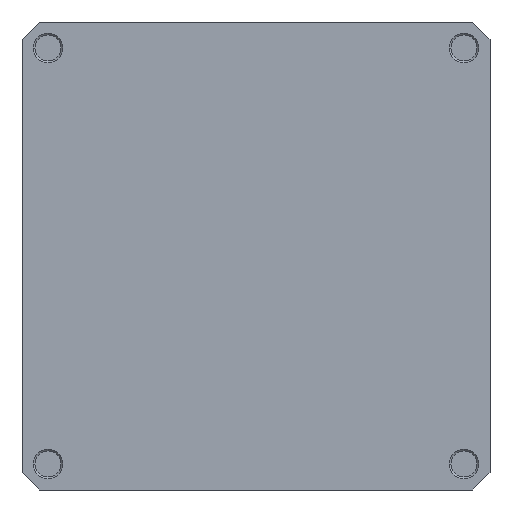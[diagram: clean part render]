
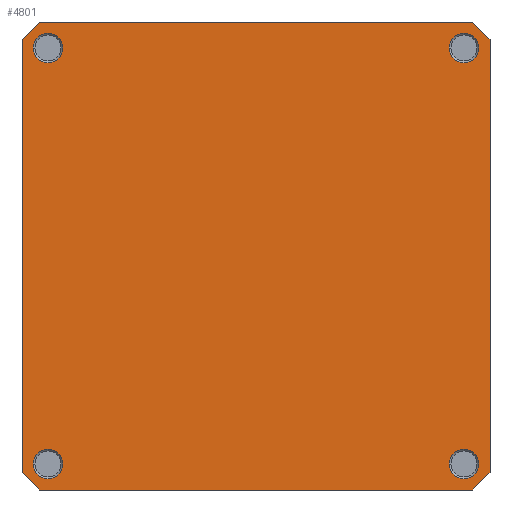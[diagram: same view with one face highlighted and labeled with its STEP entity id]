
A CAD part, front view. The second image highlights one B-rep face of the part: STEP entity #4801.
In plain terms, the highlighted planar face has unit normal (0, -1, 0).
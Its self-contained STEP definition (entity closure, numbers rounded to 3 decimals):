
#2=DIRECTION('',(0.707,0.,-0.707));
#3=VECTOR('',#2,2.828);
#4=CARTESIAN_POINT('',(-27.,-90.,-25.));
#5=LINE('',#4,#3);
#6=DIRECTION('',(0.,0.,1.));
#7=VECTOR('',#6,50.);
#8=CARTESIAN_POINT('',(-27.,-90.,-25.));
#9=LINE('',#8,#7);
#10=DIRECTION('',(-0.707,0.,-0.707));
#11=VECTOR('',#10,2.828);
#12=CARTESIAN_POINT('',(-25.,-90.,27.));
#13=LINE('',#12,#11);
#14=DIRECTION('',(1.,0.,0.));
#15=VECTOR('',#14,50.);
#16=CARTESIAN_POINT('',(-25.,-90.,27.));
#17=LINE('',#16,#15);
#18=DIRECTION('',(-0.707,0.,0.707));
#19=VECTOR('',#18,2.828);
#20=CARTESIAN_POINT('',(27.,-90.,25.));
#21=LINE('',#20,#19);
#22=DIRECTION('',(0.,0.,-1.));
#23=VECTOR('',#22,50.);
#24=CARTESIAN_POINT('',(27.,-90.,25.));
#25=LINE('',#24,#23);
#26=DIRECTION('',(0.707,0.,0.707));
#27=VECTOR('',#26,2.828);
#28=CARTESIAN_POINT('',(25.,-90.,-27.));
#29=LINE('',#28,#27);
#30=DIRECTION('',(-1.,0.,0.));
#31=VECTOR('',#30,50.);
#32=CARTESIAN_POINT('',(25.,-90.,-27.));
#33=LINE('',#32,#31);
#34=CARTESIAN_POINT('',(24.,-90.,-24.));
#35=DIRECTION('',(0.,1.,0.));
#36=DIRECTION('',(0.,0.,1.));
#37=AXIS2_PLACEMENT_3D('',#34,#35,#36);
#39=CARTESIAN_POINT('',(24.,-90.,-24.));
#40=DIRECTION('',(0.,1.,0.));
#41=DIRECTION('',(0.,0.,-1.));
#42=AXIS2_PLACEMENT_3D('',#39,#40,#41);
#44=CARTESIAN_POINT('',(24.,-90.,24.));
#45=DIRECTION('',(0.,1.,0.));
#46=DIRECTION('',(0.,0.,1.));
#47=AXIS2_PLACEMENT_3D('',#44,#45,#46);
#49=CARTESIAN_POINT('',(24.,-90.,24.));
#50=DIRECTION('',(0.,1.,0.));
#51=DIRECTION('',(0.,0.,-1.));
#52=AXIS2_PLACEMENT_3D('',#49,#50,#51);
#54=CARTESIAN_POINT('',(-24.,-90.,24.));
#55=DIRECTION('',(0.,1.,0.));
#56=DIRECTION('',(0.,0.,-1.));
#57=AXIS2_PLACEMENT_3D('',#54,#55,#56);
#59=CARTESIAN_POINT('',(-24.,-90.,24.));
#60=DIRECTION('',(0.,1.,0.));
#61=DIRECTION('',(0.,0.,1.));
#62=AXIS2_PLACEMENT_3D('',#59,#60,#61);
#64=CARTESIAN_POINT('',(-24.,-90.,-24.));
#65=DIRECTION('',(0.,1.,0.));
#66=DIRECTION('',(0.,0.,-1.));
#67=AXIS2_PLACEMENT_3D('',#64,#65,#66);
#69=CARTESIAN_POINT('',(-24.,-90.,-24.));
#70=DIRECTION('',(0.,1.,0.));
#71=DIRECTION('',(0.,0.,1.));
#72=AXIS2_PLACEMENT_3D('',#69,#70,#71);
#3886=CARTESIAN_POINT('',(-27.,-90.,-25.));
#3887=CARTESIAN_POINT('',(-25.,-90.,-27.));
#3888=VERTEX_POINT('',#3886);
#3889=VERTEX_POINT('',#3887);
#3894=CARTESIAN_POINT('',(-25.,-90.,27.));
#3895=CARTESIAN_POINT('',(-27.,-90.,25.));
#3896=VERTEX_POINT('',#3894);
#3897=VERTEX_POINT('',#3895);
#3910=CARTESIAN_POINT('',(25.,-90.,-27.));
#3911=CARTESIAN_POINT('',(27.,-90.,-25.));
#3912=VERTEX_POINT('',#3910);
#3913=VERTEX_POINT('',#3911);
#3918=CARTESIAN_POINT('',(27.,-90.,25.));
#3919=CARTESIAN_POINT('',(25.,-90.,27.));
#3920=VERTEX_POINT('',#3918);
#3921=VERTEX_POINT('',#3919);
#4106=CARTESIAN_POINT('',(24.,-90.,-22.3));
#4107=CARTESIAN_POINT('',(24.,-90.,-25.7));
#4108=VERTEX_POINT('',#4106);
#4109=VERTEX_POINT('',#4107);
#4114=CARTESIAN_POINT('',(24.,-90.,25.7));
#4115=CARTESIAN_POINT('',(24.,-90.,22.3));
#4116=VERTEX_POINT('',#4114);
#4117=VERTEX_POINT('',#4115);
#4122=CARTESIAN_POINT('',(-24.,-90.,22.3));
#4123=CARTESIAN_POINT('',(-24.,-90.,25.7));
#4124=VERTEX_POINT('',#4122);
#4125=VERTEX_POINT('',#4123);
#4130=CARTESIAN_POINT('',(-24.,-90.,-25.7));
#4131=CARTESIAN_POINT('',(-24.,-90.,-22.3));
#4132=VERTEX_POINT('',#4130);
#4133=VERTEX_POINT('',#4131);
#4754=CARTESIAN_POINT('',(0.,-90.,0.));
#4755=DIRECTION('',(0.,1.,0.));
#4756=DIRECTION('',(1.,0.,0.));
#4757=AXIS2_PLACEMENT_3D('',#4754,#4755,#4756);
#4758=PLANE('',#4757);
#4760=ORIENTED_EDGE('',*,*,#4759,.F.);
#4762=ORIENTED_EDGE('',*,*,#4761,.T.);
#4764=ORIENTED_EDGE('',*,*,#4763,.F.);
#4766=ORIENTED_EDGE('',*,*,#4765,.T.);
#4768=ORIENTED_EDGE('',*,*,#4767,.F.);
#4770=ORIENTED_EDGE('',*,*,#4769,.T.);
#4772=ORIENTED_EDGE('',*,*,#4771,.F.);
#4774=ORIENTED_EDGE('',*,*,#4773,.T.);
#4775=EDGE_LOOP('',(#4760,#4762,#4764,#4766,#4768,#4770,#4772,#4774));
#4776=FACE_OUTER_BOUND('',#4775,.F.);
#4778=ORIENTED_EDGE('',*,*,#4777,.F.);
#4780=ORIENTED_EDGE('',*,*,#4779,.F.);
#4781=EDGE_LOOP('',(#4778,#4780));
#4782=FACE_BOUND('',#4781,.F.);
#4784=ORIENTED_EDGE('',*,*,#4783,.F.);
#4786=ORIENTED_EDGE('',*,*,#4785,.F.);
#4787=EDGE_LOOP('',(#4784,#4786));
#4788=FACE_BOUND('',#4787,.F.);
#4790=ORIENTED_EDGE('',*,*,#4789,.F.);
#4792=ORIENTED_EDGE('',*,*,#4791,.F.);
#4793=EDGE_LOOP('',(#4790,#4792));
#4794=FACE_BOUND('',#4793,.F.);
#4796=ORIENTED_EDGE('',*,*,#4795,.F.);
#4798=ORIENTED_EDGE('',*,*,#4797,.F.);
#4799=EDGE_LOOP('',(#4796,#4798));
#4800=FACE_BOUND('',#4799,.F.);
#4801=ADVANCED_FACE('',(#4776,#4782,#4788,#4794,#4800),#4758,.F.);
#38=CIRCLE('',#37,1.7);
#43=CIRCLE('',#42,1.7);
#48=CIRCLE('',#47,1.7);
#53=CIRCLE('',#52,1.7);
#58=CIRCLE('',#57,1.7);
#63=CIRCLE('',#62,1.7);
#68=CIRCLE('',#67,1.7);
#73=CIRCLE('',#72,1.7);
#4759=EDGE_CURVE('',#3888,#3889,#5,.T.);
#4761=EDGE_CURVE('',#3888,#3897,#9,.T.);
#4763=EDGE_CURVE('',#3896,#3897,#13,.T.);
#4765=EDGE_CURVE('',#3896,#3921,#17,.T.);
#4767=EDGE_CURVE('',#3920,#3921,#21,.T.);
#4769=EDGE_CURVE('',#3920,#3913,#25,.T.);
#4771=EDGE_CURVE('',#3912,#3913,#29,.T.);
#4773=EDGE_CURVE('',#3912,#3889,#33,.T.);
#4777=EDGE_CURVE('',#4108,#4109,#38,.T.);
#4779=EDGE_CURVE('',#4109,#4108,#43,.T.);
#4783=EDGE_CURVE('',#4116,#4117,#48,.T.);
#4785=EDGE_CURVE('',#4117,#4116,#53,.T.);
#4789=EDGE_CURVE('',#4124,#4125,#58,.T.);
#4791=EDGE_CURVE('',#4125,#4124,#63,.T.);
#4795=EDGE_CURVE('',#4132,#4133,#68,.T.);
#4797=EDGE_CURVE('',#4133,#4132,#73,.T.);
